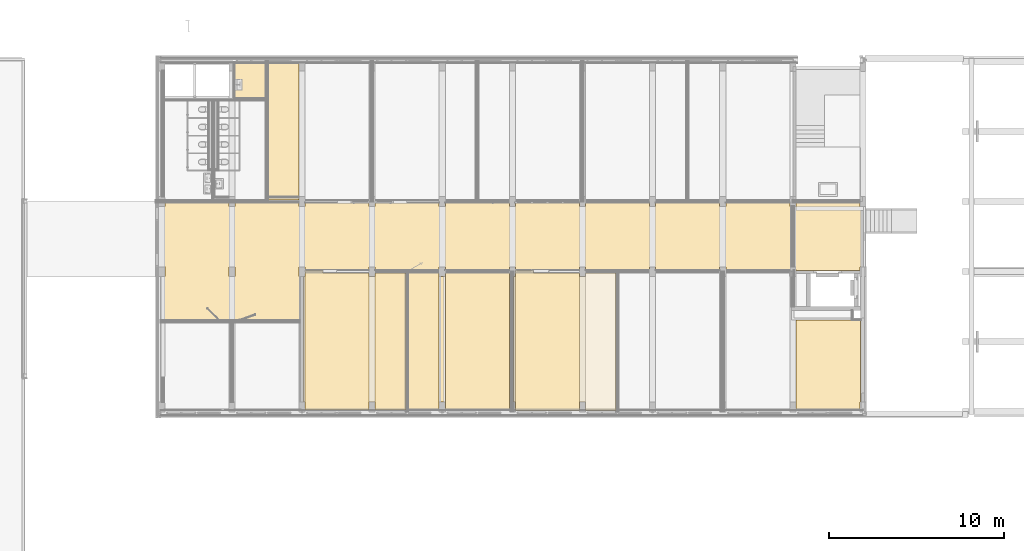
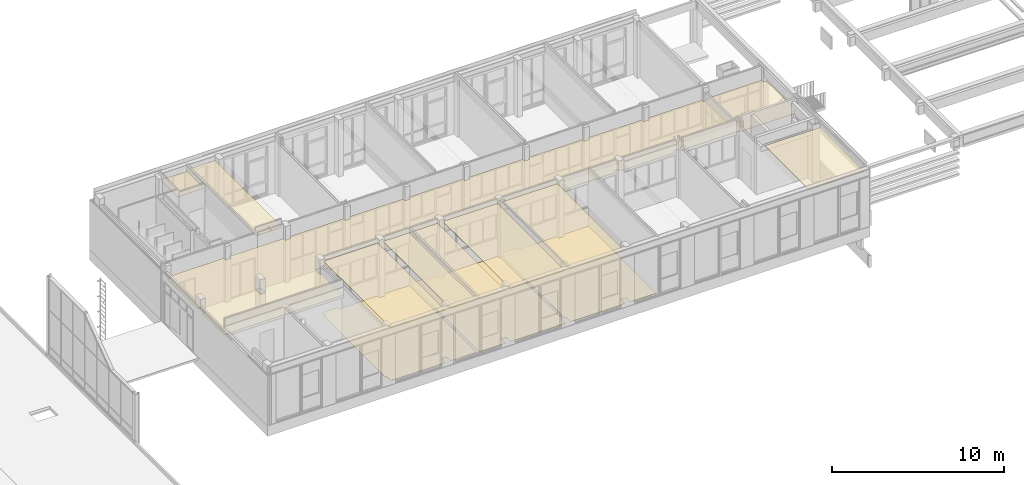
# One storey, part 44 of 54: 11 coverings.
"""IFC2X3 building model written with IfcOpenShell, lengths in millimetres."""

import ifcopenshell
import ifcopenshell.guid

model = None  # the IFC model being written
_history = None  # IfcOwnerHistory: only IFC2X3 demands one
_inside = {}  # id of a spatial element -> (the spatial element, [elements in it])
_under = {}  # id of a project, library or spatial element -> (it, [spatial elements below it])
_declared = {}  # id of a project -> (the project, [libraries it declares])
_typed = {}  # id of a type object -> (the type object, [elements of that type])
_made_of = {}  # id of a material, layer set ... -> (it, [elements and type objects made of it])


def new_model(schema):
    """Start an empty IFC model of exactly this schema.

    Asked for "IFC4X3", IfcOpenShell would pick the latest addendum, in which some entities
    have other attributes; the version numbers below select the first issue.
    IFC2X3 requires an IfcOwnerHistory on every rooted entity: one is made here for all.
    """
    global model, _history
    if schema == "IFC4X3":
        model = ifcopenshell.file(schema_version=(4, 3, 0, 0))
    else:
        model = ifcopenshell.file(schema=schema)
    _inside.clear()
    _under.clear()
    _declared.clear()
    _typed.clear()
    _made_of.clear()
    _history = None
    if model.schema == "IFC2X3":
        org = make("IfcOrganization", Name="unknown")
        user = make(
            "IfcPersonAndOrganization",
            ThePerson=make("IfcPerson", FamilyName="unknown"),
            TheOrganization=org,
        )
        app = make(
            "IfcApplication",
            ApplicationDeveloper=org,
            Version="unknown",
            ApplicationFullName="unknown",
            ApplicationIdentifier="unknown",
        )
        _history = make(
            "IfcOwnerHistory",
            OwningUser=user,
            OwningApplication=app,
            ChangeAction="ADDED",
            CreationDate=0,
        )
    return model


def make(cls, **values):
    """One entity of the class cls with the attributes given. An attribute that is None is left unset."""
    return model.create_entity(
        cls, **{name: value for name, value in values.items() if value is not None}
    )


def entity(cls, *values):
    """Any entity or typed value of the class cls, its attributes in the order of the schema. None: left unset."""
    e = model.create_entity(cls)
    for i, value in enumerate(values):
        if value is not None:
            e[i] = value
    return e


def rooted(cls, **values):
    """An entity with a GlobalId (a new one), such as an element, a storey or a relation."""
    return make(cls, GlobalId=ifcopenshell.guid.new(), OwnerHistory=_history, **values)


def si_unit(unit_type, name, prefix=None):
    """IfcSIUnit, for example si_unit("LENGTHUNIT", "METRE", prefix="MILLI")."""
    return make("IfcSIUnit", UnitType=unit_type, Prefix=prefix, Name=name)


def converted_unit(unit_type, name, factor, base, dimensions=None, offset=None):
    """IfcConversionBasedUnit, such as the inch: factor (a typed value) times the base unit."""
    return make(
        "IfcConversionBasedUnit"
        if offset is None
        else "IfcConversionBasedUnitWithOffset",
        ConversionOffset=offset,
        Dimensions=None
        if dimensions is None
        else entity("IfcDimensionalExponents", *dimensions),
        UnitType=unit_type,
        Name=name,
        ConversionFactor=make(
            "IfcMeasureWithUnit", ValueComponent=factor, UnitComponent=base
        ),
    )


def derived_unit(unit_type, elements):
    """IfcDerivedUnit: a product of units, each with its exponent."""
    return make(
        "IfcDerivedUnit",
        Elements=[
            make("IfcDerivedUnitElement", Unit=unit, Exponent=power)
            for unit, power in elements
        ],
        UnitType=unit_type,
    )


def money_unit(currency):
    """IfcMonetaryUnit."""
    return make("IfcMonetaryUnit", Currency=currency)


def assignment(units):
    """IfcUnitAssignment: the units of a project."""
    return None if units is None else make("IfcUnitAssignment", Units=units)


def point(xyz):
    """IfcCartesianPoint."""
    return None if xyz is None else make("IfcCartesianPoint", Coordinates=xyz)


def direction(xyz):
    """IfcDirection."""
    return None if xyz is None else make("IfcDirection", DirectionRatios=xyz)


def frame(location, z_axis=None, x_axis=None):
    """IfcAxis2Placement3D, a coordinate frame: its origin and axes. An axis left out is left unset."""
    return make(
        "IfcAxis2Placement3D",
        Location=point(location),
        Axis=direction(z_axis),
        RefDirection=direction(x_axis),
    )


def origin_with_axes():
    """The frame at (0, 0, 0) with the z axis (0, 0, 1) and the x axis (1, 0, 0) written out."""
    return frame((0.0, 0.0, 0.0), z_axis=(0.0, 0.0, 1.0), x_axis=(1.0, 0.0, 0.0))


def place(relative_to, where):
    """IfcLocalPlacement: puts the frame where relative to a parent placement (None: the world)."""
    return make(
        "IfcLocalPlacement", PlacementRelTo=relative_to, RelativePlacement=where
    )


def context(
    kind, dimensions, precision=None, world=None, true_north=None, identifier=None
):
    """IfcGeometricRepresentationContext, for example the 3D "Model" context."""
    return make(
        "IfcGeometricRepresentationContext",
        ContextIdentifier=identifier,
        ContextType=kind,
        CoordinateSpaceDimension=dimensions,
        Precision=precision,
        WorldCoordinateSystem=world,
        TrueNorth=true_north,
    )


def subcontext(parent, identifier, kind, view, scale=None):
    """IfcGeometricRepresentationSubContext, for example "Body" below "Model"."""
    return make(
        "IfcGeometricRepresentationSubContext",
        ContextIdentifier=identifier,
        ContextType=kind,
        ParentContext=parent,
        TargetScale=scale,
        TargetView=view,
    )


def project(units=None, contexts=None):
    """IfcProject with its units and contexts."""
    return rooted(
        "IfcProject",
        Name="project",
        RepresentationContexts=contexts,
        UnitsInContext=assignment(units),
    )


def spatial(cls, under=None, at=None, **own):
    """A site, building, storey or space (cls), placed at a placement, below another one or the project."""
    s = rooted(cls, ObjectPlacement=at, **own)
    if under is not None:
        _under.setdefault(under.id(), (under, []))[1].append(s)
    return s


def faces_of(points, faces, orient=None, outer=None):
    """IfcFace entities. A face is a list of loops; a loop is a list of indices into points, from 0.

    orient and outer hold one flag for each loop. By default every Orientation is true, the
    first loop of a face is its IfcFaceOuterBound and the others are IfcFaceBound.
    """
    made = []
    for i, loops in enumerate(faces):
        bounds = []
        for j, loop in enumerate(loops):
            is_outer = j == 0 if outer is None else outer[i][j]
            bounds.append(
                make(
                    "IfcFaceOuterBound" if is_outer else "IfcFaceBound",
                    Bound=make("IfcPolyLoop", Polygon=[points[k] for k in loop]),
                    Orientation=True if orient is None else orient[i][j],
                )
            )
        made.append(make("IfcFace", Bounds=bounds))
    return made


def faceted_brep(points, faces, orient=None, outer=None, voids=None):
    """IfcFacetedBrep: a solid bounded by flat faces; with voids (closed shells), ...WithVoids."""
    shared = [point(p) for p in points]
    hull = make("IfcClosedShell", CfsFaces=faces_of(shared, faces, orient, outer))
    if voids is None:
        return make("IfcFacetedBrep", Outer=hull)
    return make(
        "IfcFacetedBrepWithVoids",
        Outer=hull,
        Voids=[
            make(cls, CfsFaces=faces_of(shared, fs, o, b)) for cls, fs, o, b in voids
        ],
    )


def shape(context_of_items, identifier, shape_type, items):
    """IfcShapeRepresentation: the items that make up one representation, for example the "Body"."""
    return make(
        "IfcShapeRepresentation",
        ContextOfItems=context_of_items,
        RepresentationIdentifier=identifier,
        RepresentationType=shape_type,
        Items=items,
    )


def material(Name=None, Category=None):
    """IfcMaterial."""
    return make("IfcMaterial", Name=Name, Category=Category)


def made_of(thing, what):
    """Note that an element or type object is made of a material, layer set ...; save() writes the relation."""
    if what is not None:
        _made_of.setdefault(what.id(), (what, []))[1].append(thing)
    return thing


def type_object(cls, material=None, **own):
    """A type object (cls), such as IfcWallType, which elements share."""
    return made_of(rooted(cls, **own), material)


def element(
    cls,
    number,
    at=None,
    inside=None,
    cuts=None,
    type_object=None,
    material=None,
    context=None,
    identifier="Body",
    shape_type=None,
    held_by="IfcProductDefinitionShape",
    body=None,
    shapes=None,
    **own,
):
    """One element of the class cls, such as IfcWall. Its Tag is "e" and its number.

    at: its placement. inside: the storey or other place that contains it. cuts: it is an
    opening in that element (IfcRelVoidsElement). A single representation is given by context,
    identifier, shape_type and body (its items); several are given by shapes. held_by: the class
    of the entity that holds the representations. save() writes the other relations.
    """
    e = rooted(cls, Tag="e%d" % number, ObjectPlacement=at, **own)
    if body is not None:
        shapes = [shape(context, identifier, shape_type, body)]
    if shapes is not None:
        e.Representation = make(held_by, Representations=shapes)
    if inside is not None:
        _inside.setdefault(inside.id(), (inside, []))[1].append(e)
    if cuts is not None:
        rooted(
            "IfcRelVoidsElement", RelatingBuildingElement=cuts, RelatedOpeningElement=e
        )
    if type_object is not None:
        _typed.setdefault(type_object.id(), (type_object, []))[1].append(e)
    return made_of(e, material)


def aggregate(whole, parts):
    """IfcRelAggregates: a whole, such as a stair, and the parts it consists of."""
    return rooted("IfcRelAggregates", RelatingObject=whole, RelatedObjects=parts)


def save(model, path):
    """Write the relations noted so far, then the file.

    IfcRelAggregates (storeys below a building ...), IfcRelContainedInSpatialStructure (elements
    in a storey), IfcRelDefinesByType, IfcRelAssociatesMaterial and IfcRelDeclares: one each for
    every whole, place, type object, material and project.
    """
    for whole, parts in _under.values():
        aggregate(whole, parts)
    for where, things in _inside.values():
        rooted(
            "IfcRelContainedInSpatialStructure",
            RelatedElements=things,
            RelatingStructure=where,
        )
    for kind, things in _typed.values():
        rooted("IfcRelDefinesByType", RelatedObjects=things, RelatingType=kind)
    for what, things in _made_of.values():
        rooted("IfcRelAssociatesMaterial", RelatedObjects=things, RelatingMaterial=what)
    for by, libraries in _declared.values():
        rooted("IfcRelDeclares", RelatingContext=by, RelatedDefinitions=libraries)
    model.write(path)


model = new_model("IFC2X3")

# Units and contexts
model_context = context("Model", 3, precision=0.01, world=origin_with_axes(), true_north=direction((0.0, 1.0)))
body_context = subcontext(model_context, "Body", "Model", "MODEL_VIEW")
ifc_project = project(units=[si_unit("LENGTHUNIT", "METRE", prefix="MILLI"), si_unit("AREAUNIT", "SQUARE_METRE"), si_unit("VOLUMEUNIT", "CUBIC_METRE"), converted_unit("PLANEANGLEUNIT", "DEGREE", entity("IfcPlaneAngleMeasure", 0.0174532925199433), si_unit("PLANEANGLEUNIT", "RADIAN"), dimensions=[0, 0, 0, 0, 0, 0, 0]), money_unit("EUR"), converted_unit("TIMEUNIT", "Year", entity("IfcTimeMeasure", 31557600.0), si_unit("TIMEUNIT", "SECOND"), dimensions=[0, 0, 1, 0, 0, 0, 0]), si_unit("MASSUNIT", "GRAM", prefix="KILO"), si_unit("THERMODYNAMICTEMPERATUREUNIT", "DEGREE_CELSIUS"), si_unit("LUMINOUSINTENSITYUNIT", "LUMEN"), si_unit("ENERGYUNIT", "JOULE", prefix="MEGA"), derived_unit("THERMALCONDUCTANCEUNIT", [(si_unit("POWERUNIT", "WATT"), 1), (si_unit("LENGTHUNIT", "METRE"), -1), (si_unit("THERMODYNAMICTEMPERATUREUNIT", "KELVIN"), -1)]), derived_unit("SPECIFICHEATCAPACITYUNIT", [(si_unit("ENERGYUNIT", "JOULE"), 1), (si_unit("MASSUNIT", "GRAM", prefix="KILO"), -1), (si_unit("THERMODYNAMICTEMPERATUREUNIT", "KELVIN"), -1)]), derived_unit("MASSDENSITYUNIT", [(si_unit("MASSUNIT", "GRAM", prefix="KILO"), 1), (si_unit("VOLUMEUNIT", "CUBIC_METRE"), -1)])], contexts=[model_context])

# Site, building, storey
site_placement = place(None, origin_with_axes())
site = spatial("IfcSite", under=ifc_project, at=site_placement, Name="<site naam>", CompositionType="ELEMENT")
building_placement = place(site_placement, origin_with_axes())
building = spatial("IfcBuilding", under=site, at=building_placement, Name="<Naam gebouw>", CompositionType="ELEMENT")
storey_placement = place(building_placement, frame((0.0, 0.0, 8500.0), z_axis=(0.0, 0.0, 1.0), x_axis=(1.0, 0.0, 0.0)))
storey = spatial("IfcBuildingStorey", under=building, at=storey_placement, Name="02 2e verdieping", CompositionType="ELEMENT", Elevation=8500.0)

# Coverings
ifc_material_1 = material(Name="systeemplafond 600*600 kleur wit")
covering_type_1 = type_object("IfcCoveringType", Name="PA-01a 40", PredefinedType="CEILING")
covering_1_placement = place(storey_placement, frame((18075.05839070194, 12092.00928641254, 3699.999999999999), z_axis=(0.0, 0.0, 1.0), x_axis=(1.0, 0.0, 0.0)))
element("IfcCovering", 1, at=covering_1_placement, inside=storey, type_object=covering_type_1, material=ifc_material_1, Name="45_Vloer_PA-01a", PredefinedType="CEILING", context=body_context, shape_type="Brep", body=[
    faceted_brep([(1749.941494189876, 0.0, 40.00000000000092), (0.0, 0.0, 40.00000000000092), (0.0, 0.0, 0.0), (1749.941494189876, 0.0, 0.0), (1749.941610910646, 7791.990713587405, 40.00000000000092), (0.0, 7791.990713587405, 40.00000000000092), (0.0, 7791.990713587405, 0.0), (1749.941610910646, 7791.990713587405, 0.0)], [[[0, 1, 2, 3]], [[4, 5, 1, 0]], [[1, 5, 6, 2]], [[3, 2, 6, 7]], [[4, 0, 3, 7]], [[5, 4, 7, 6]]]),
])
covering_2_placement = place(storey_placement, frame((20175.00000000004, 7963.371334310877, 3699.999999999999), z_axis=(0.0, 0.0, 1.0), x_axis=(1.0, 0.0, 0.0)))
element("IfcCovering", 2, at=covering_2_placement, inside=storey, type_object=covering_type_1, material=ifc_material_1, Name="45_Vloer_PA-01a", PredefinedType="CEILING", context=body_context, shape_type="Brep", body=[
    faceted_brep([(3649.999985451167, -7847.371334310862, 0.0), (3649.999985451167, -25.87133431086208, 0.0), (3649.999985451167, -25.87133431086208, 40.00000000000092), (3649.999985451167, -7847.371334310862, 40.00000000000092), (0.0, -7847.371334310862, 0.0), (0.0, -25.87133431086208, 0.0), (0.0, -25.87133431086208, 40.00000000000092), (0.0, -7847.371334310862, 40.00000000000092)], [[[0, 1, 2, 3]], [[4, 5, 1, 0]], [[5, 6, 2, 1]], [[3, 2, 6, 7]], [[3, 7, 4, 0]], [[7, 6, 5, 4]]]),
])
covering_3_placement = place(storey_placement, frame((35825.00000000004, 7923.145650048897, 3699.999999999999), z_axis=(0.0, 0.0, 1.0), x_axis=(1.0, 0.0, 0.0)))
element("IfcCovering", 3, at=covering_3_placement, inside=storey, type_object=covering_type_1, material=ifc_material_1, Name="45_Vloer_PA-01a", PredefinedType="CEILING", context=body_context, shape_type="Brep", body=[
    faceted_brep([(0.0, 0.0, 40.00000000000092), (0.0, 0.0, 0.0), (-3650.000122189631, 0.0, 0.0), (-3650.000122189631, 0.0, 40.00000000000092), (0.0, -7807.145650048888, 40.00000000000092), (0.0, -7807.145650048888, 0.0), (-3650.000122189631, -7807.145650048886, 0.0), (-3650.000122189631, -7807.145650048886, 40.00000000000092)], [[[0, 1, 2, 3]], [[4, 5, 1, 0]], [[2, 1, 5, 6]], [[3, 2, 6, 7]], [[0, 3, 7, 4]], [[7, 6, 5, 4]]]),
])
covering_4_placement = place(storey_placement, frame((48174.99974672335, 116.0000000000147, 3699.999999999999), z_axis=(0.0, 0.0, 1.0), x_axis=(1.0, 0.0, 0.0)))
element("IfcCovering", 4, at=covering_4_placement, inside=storey, type_object=covering_type_1, material=ifc_material_1, Name="45_Vloer_PA-01a", PredefinedType="CEILING", context=body_context, shape_type="Brep", body=[
    faceted_brep([(0.0, 0.0, 40.00000000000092), (0.0, 0.0, 0.0), (3650.00024250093, 0.0, 0.0), (3650.00024250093, 0.0, 40.00000000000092), (0.0, 5112.500000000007, 40.00000000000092), (0.0, 5112.500000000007, 0.0), (3690.000396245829, 5112.500000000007, 0.0), (3690.000396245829, 433.9998078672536, 0.0), (3650.00024250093, 433.9998078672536, 0.0), (3650.00024250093, 433.9998078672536, 40.00000000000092), (3690.000396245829, 433.9998078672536, 40.00000000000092), (3690.000396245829, 5112.500000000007, 40.00000000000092)], [[[0, 1, 2, 3]], [[4, 5, 1, 0]], [[2, 1, 5, 6, 7, 8]], [[3, 2, 8, 9]], [[4, 0, 3, 9, 10, 11]], [[11, 6, 5, 4]], [[10, 7, 6, 11]], [[9, 8, 7, 10]]]),
])
covering_5_placement = place(storey_placement, frame((31825.00012218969, 116.0000000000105, 3699.999999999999), z_axis=(0.0, 0.0, 1.0), x_axis=(1.0, 0.0, 0.0)))
element("IfcCovering", 5, at=covering_5_placement, inside=storey, type_object=covering_type_1, material=ifc_material_1, Name="45_Vloer_PA-01a", PredefinedType="CEILING", context=body_context, shape_type="Brep", body=[
    faceted_brep([(0.0, 0.0, 40.00000000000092), (0.0, 0.0, 0.0), (0.0, 7807.145598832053, 0.0), (0.0, 7807.145598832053, 40.00000000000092), (-3650.000037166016, 0.0, 40.00000000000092), (-3650.000037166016, 0.0, 0.0), (-3650.000037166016, 7807.145598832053, 0.0), (-3650.000037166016, 7807.145598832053, 40.00000000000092)], [[[0, 1, 2, 3]], [[4, 5, 1, 0]], [[1, 5, 6, 2]], [[3, 2, 6, 7]], [[4, 0, 3, 7]], [[7, 6, 5, 4]]]),
])
covering_6_placement = place(storey_placement, frame((24174.99987781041, 116.0000000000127, 3699.999999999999), z_axis=(0.0, 0.0, 1.0), x_axis=(1.0, 0.0, 0.0)))
element("IfcCovering", 6, at=covering_6_placement, inside=storey, type_object=covering_type_1, material=ifc_material_1, Name="45_Vloer_PA-01a", PredefinedType="CEILING", context=body_context, shape_type="Brep", body=[
    faceted_brep([(0.0, 0.0, 40.00000000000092), (0.0, 0.0, 0.0), (1748.749154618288, 0.0, 0.0), (1748.749154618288, 0.0, 40.00000000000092), (0.0, 7807.145527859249, 40.00000000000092), (0.0, 7807.145527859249, 0.0), (3650.000263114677, 7807.145527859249, 0.0), (3650.019574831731, 434.0000119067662, 0.0), (3650.001891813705, 0.0, 0.0), (1898.748845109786, 0.0, 0.0), (1898.748845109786, 7805.615597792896, 0.0), (1748.749154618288, 7805.615597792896, 0.0), (1748.749154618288, 7805.615597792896, 40.00000000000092), (1898.748845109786, 7805.615597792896, 40.00000000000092), (1898.748845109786, 0.0, 40.00000000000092), (3650.001891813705, 0.0, 40.00000000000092), (3650.019574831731, 434.0000119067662, 40.00000000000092), (3650.000263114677, 7807.145527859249, 40.00000000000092)], [[[0, 1, 2, 3]], [[4, 5, 1, 0]], [[2, 1, 5, 6, 7, 8, 9, 10, 11]], [[3, 2, 11, 12]], [[0, 3, 12, 13, 14, 15, 16, 17, 4]], [[17, 6, 5, 4]], [[16, 7, 6, 17]], [[15, 8, 7, 16]], [[14, 9, 8, 15]], [[13, 10, 9, 14]], [[12, 11, 10, 13]]]),
])
covering_7_placement = place(storey_placement, frame((17925.10061380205, 19883.99999999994, 3600.0), z_axis=(0.0, 0.0, 1.0), x_axis=(1.0, 0.0, 0.0)))
element("IfcCovering", 7, at=covering_7_placement, inside=storey, type_object=covering_type_1, material=ifc_material_1, Name="45_Vloer_PA-01a", PredefinedType="CEILING", context=body_context, shape_type="Brep", body=[
    faceted_brep([(0.0, 0.0, 40.00000000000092), (0.0, 0.0, 0.0), (-1750.100570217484, 0.0, 0.0), (-1750.100570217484, 0.0, 40.00000000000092), (0.0, -1983.999999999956, 40.00000000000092), (0.0, -1983.999999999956, 0.0), (-1750.100570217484, -1983.999999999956, 0.0), (-1750.100570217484, -1983.999999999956, 40.00000000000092)], [[[0, 1, 2, 3]], [[4, 5, 1, 0]], [[2, 1, 5, 6]], [[3, 2, 6, 7]], [[4, 0, 3, 7]], [[7, 6, 5, 4]]]),
])
ifc_material_2 = material(Name="systeemplafond 600*600")
covering_type_2 = type_object("IfcCoveringType", Name="PA-01c 40", PredefinedType="CEILING")
covering_8_placement = place(storey_placement, frame((11935.00007376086, 5225.000000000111, 3000.0), z_axis=(0.0, 0.0, 1.0), x_axis=(1.0, 0.0, 0.0)))
element("IfcCovering", 8, at=covering_8_placement, inside=storey, type_object=covering_type_2, material=ifc_material_2, Name="45_Vloer_PA-01c", PredefinedType="CEILING", context=body_context, shape_type="Brep", body=[
    faceted_brep([(7989.999926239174, 0.0, 39.99999999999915), (0.0, 0.0, 39.99999999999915), (0.0, 0.0, 0.0), (7989.999926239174, 0.0, 0.0), (239.9999262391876, 2499.999999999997, 39.99999999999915), (0.0, 2499.999999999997, 39.99999999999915), (7989.999926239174, 2499.999999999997, 39.99999999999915), (7889.999926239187, 2499.999999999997, 39.99999999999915), (7889.999926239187, 3050.000000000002, 39.99999999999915), (8239.999926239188, 3050.000000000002, 39.99999999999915), (8239.999926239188, 2849.435951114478, 39.99999999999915), (11889.99992623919, 2849.435951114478, 39.99999999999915), (11889.99992623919, 3050.000000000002, 39.99999999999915), (12239.99992623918, 3050.000000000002, 39.99999999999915), (12239.99992623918, 2849.435951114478, 39.99999999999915), (15889.99992623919, 2849.435951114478, 39.99999999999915), (15889.99992623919, 3049.999999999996, 39.99999999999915), (16239.99992623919, 3049.999999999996, 39.99999999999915), (16239.99992623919, 2849.435951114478, 39.99999999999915), (19889.9999262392, 2849.435951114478, 39.99999999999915), (19889.9999262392, 3049.999999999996, 39.99999999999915), (20239.99992623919, 3049.999999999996, 39.99999999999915), (20239.99992623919, 2849.435951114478, 39.99999999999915), (23889.9999262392, 2849.435951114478, 39.99999999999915), (23889.9999262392, 3049.999999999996, 39.99999999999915), (24239.99992623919, 3049.999999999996, 39.99999999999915), (24239.99992623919, 2849.435951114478, 39.99999999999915), (27889.9999262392, 2849.435951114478, 39.99999999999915), (27889.9999262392, 3049.999999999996, 39.99999999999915), (28239.9999262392, 3049.999999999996, 39.99999999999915), (28239.9999262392, 2849.435951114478, 39.99999999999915), (31889.9999262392, 2849.435951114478, 39.99999999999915), (31889.9999262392, 3049.999999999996, 39.99999999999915), (32239.99992623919, 3049.999999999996, 39.99999999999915), (32239.99992623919, 2888.658470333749, 39.99999999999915), (36239.99992623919, 2888.658470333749, 39.99999999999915), (36239.99992623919, 2829.999998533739, 39.99999999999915), (39889.99992623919, 2829.999998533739, 39.99999999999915), (39889.99992623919, 3049.999999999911, 39.99999999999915), (40089.99837730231, 3049.999999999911, 39.99999999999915), (40089.99837730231, 6499.999999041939, 39.99999999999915), (39890.02677438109, 6499.999997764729, 39.99999999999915), (39890.02677438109, 6699.999999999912, 39.99999999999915), (36239.99992623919, 6699.999999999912, 39.99999999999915), (36239.99992623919, 6499.999997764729, 39.99999999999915), (35889.99992623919, 6499.999999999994, 39.99999999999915), (35889.99992623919, 6702.076391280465, 39.99999999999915), (32239.99992623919, 6702.076391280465, 39.99999999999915), (32239.99992623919, 6499.999999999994, 39.99999999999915), (31889.9999262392, 6499.999999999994, 39.99999999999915), (31889.9999262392, 6702.076391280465, 39.99999999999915), (28239.9999262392, 6702.076391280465, 39.99999999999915), (28239.9999262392, 6499.999999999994, 39.99999999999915), (27889.99992623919, 6499.999999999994, 39.99999999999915), (27889.99992623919, 6702.076391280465, 39.99999999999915), (24239.99992623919, 6702.076391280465, 39.99999999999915), (24239.99992623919, 6499.999999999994, 39.99999999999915), (23889.99992623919, 6499.999999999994, 39.99999999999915), (23889.99992623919, 6702.076391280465, 39.99999999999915), (20239.99992623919, 6702.076391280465, 39.99999999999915), (20239.99992623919, 6499.999999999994, 39.99999999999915), (19889.99992623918, 6499.999999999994, 39.99999999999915), (19889.99992623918, 6702.076391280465, 39.99999999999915), (16239.99992623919, 6702.076391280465, 39.99999999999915), (16239.99992623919, 6499.999999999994, 39.99999999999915), (15889.99992623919, 6499.999999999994, 39.99999999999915), (15889.99992623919, 6702.076391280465, 39.99999999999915), (12239.99992623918, 6702.076391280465, 39.99999999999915), (12239.99992623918, 6500.000000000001, 39.99999999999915), (11889.99992623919, 6500.000000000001, 39.99999999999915), (11889.99992623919, 6702.076391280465, 39.99999999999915), (8239.999926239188, 6702.076391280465, 39.99999999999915), (8239.999926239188, 6500.000000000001, 39.99999999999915), (7889.999926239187, 6500.000000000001, 39.99999999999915), (7889.999926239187, 6702.076391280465, 39.99999999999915), (4239.999926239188, 6702.076391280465, 39.99999999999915), (4239.999926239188, 6500.000000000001, 39.99999999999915), (3889.999926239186, 6500.000000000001, 39.99999999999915), (3889.999926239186, 6702.076391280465, 39.99999999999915), (239.9999262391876, 6702.076391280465, 39.99999999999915), (239.9999262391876, 6500.000000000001, 39.99999999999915), (0.0, 6500.000000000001, 39.99999999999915), (0.0, 3055.028399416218, 39.99999999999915), (239.9999262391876, 3055.028399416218, 39.99999999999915), (4239.999926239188, 3050.000000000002, 39.99999999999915), (4239.999926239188, 2499.999999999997, 39.99999999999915), (3889.999926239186, 2499.999999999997, 39.99999999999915), (3889.999926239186, 3050.000000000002, 39.99999999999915), (0.0, 2499.999999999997, 0.0), (7989.999926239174, 2499.999999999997, 0.0), (239.9999262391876, 2499.999999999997, 0.0), (239.9999262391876, 3055.028399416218, 0.0), (0.0, 3055.028399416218, 0.0), (0.0, 6500.000000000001, 0.0), (239.9999262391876, 6500.000000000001, 0.0), (239.9999262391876, 6702.076391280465, 0.0), (3889.999926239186, 6702.076391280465, 0.0), (3889.999926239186, 6500.000000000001, 0.0), (4239.999926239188, 6500.000000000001, 0.0), (4239.999926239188, 6702.076391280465, 0.0), (7889.999926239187, 6702.076391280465, 0.0), (7889.999926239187, 6500.000000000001, 0.0), (8239.999926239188, 6500.000000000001, 0.0), (8239.999926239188, 6702.076391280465, 0.0), (11889.99992623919, 6702.076391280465, 0.0), (11889.99992623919, 6500.000000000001, 0.0), (12239.99992623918, 6500.000000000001, 0.0), (12239.99992623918, 6702.076391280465, 0.0), (15889.99992623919, 6702.076391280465, 0.0), (15889.99992623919, 6499.999999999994, 0.0), (16239.99992623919, 6499.999999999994, 0.0), (16239.99992623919, 6702.076391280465, 0.0), (19889.99992623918, 6702.076391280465, 0.0), (19889.99992623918, 6499.999999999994, 0.0), (20239.99992623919, 6499.999999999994, 0.0), (20239.99992623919, 6702.076391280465, 0.0), (23889.99992623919, 6702.076391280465, 0.0), (23889.99992623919, 6499.999999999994, 0.0), (24239.99992623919, 6499.999999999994, 0.0), (24239.99992623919, 6702.076391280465, 0.0), (27889.99992623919, 6702.076391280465, 0.0), (27889.99992623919, 6499.999999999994, 0.0), (28239.9999262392, 6499.999999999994, 0.0), (28239.9999262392, 6702.076391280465, 0.0), (31889.9999262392, 6702.076391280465, 0.0), (31889.9999262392, 6499.999999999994, 0.0), (32239.99992623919, 6499.999999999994, 0.0), (32239.99992623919, 6702.076391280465, 0.0), (35889.99992623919, 6702.076391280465, 0.0), (35889.99992623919, 6499.999999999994, 0.0), (36239.99992623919, 6499.999997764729, 0.0), (36239.99992623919, 6699.999999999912, 0.0), (39890.02677438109, 6699.999999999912, 0.0), (39890.02677438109, 6499.999997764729, 0.0), (40089.99837730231, 6499.999999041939, 0.0), (40089.99837730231, 3049.999999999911, 0.0), (39889.99992623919, 3049.999999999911, 0.0), (39889.99992623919, 2829.999998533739, 0.0), (36239.99992623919, 2829.999998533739, 0.0), (36239.99992623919, 2888.658470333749, 0.0), (32239.99992623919, 2888.658470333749, 0.0), (32239.99992623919, 3049.999999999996, 0.0), (31889.9999262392, 3049.999999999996, 0.0), (31889.9999262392, 2849.435951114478, 0.0), (28239.9999262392, 2849.435951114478, 0.0), (28239.9999262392, 3049.999999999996, 0.0), (27889.9999262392, 3049.999999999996, 0.0), (27889.9999262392, 2849.435951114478, 0.0), (24239.99992623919, 2849.435951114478, 0.0), (24239.99992623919, 3049.999999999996, 0.0), (23889.9999262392, 3049.999999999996, 0.0), (23889.9999262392, 2849.435951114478, 0.0), (20239.99992623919, 2849.435951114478, 0.0), (20239.99992623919, 3049.999999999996, 0.0), (19889.9999262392, 3049.999999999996, 0.0), (19889.9999262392, 2849.435951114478, 0.0), (16239.99992623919, 2849.435951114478, 0.0), (16239.99992623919, 3049.999999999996, 0.0), (15889.99992623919, 3049.999999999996, 0.0), (15889.99992623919, 2849.435951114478, 0.0), (12239.99992623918, 2849.435951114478, 0.0), (12239.99992623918, 3050.000000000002, 0.0), (11889.99992623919, 3050.000000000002, 0.0), (11889.99992623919, 2849.435951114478, 0.0), (8239.999926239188, 2849.435951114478, 0.0), (8239.999926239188, 3050.000000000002, 0.0), (7889.999926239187, 3050.000000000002, 0.0), (7889.999926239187, 2499.999999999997, 0.0), (4239.999926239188, 3050.000000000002, 0.0), (3889.999926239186, 3050.000000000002, 0.0), (3889.999926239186, 2499.999999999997, 0.0), (4239.999926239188, 2499.999999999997, 0.0)], [[[0, 1, 2, 3]], [[4, 5, 1, 0, 6, 7, 8, 9, 10, 11, 12, 13, 14, 15, 16, 17, 18, 19, 20, 21, 22, 23, 24, 25, 26, 27, 28, 29, 30, 31, 32, 33, 34, 35, 36, 37, 38, 39, 40, 41, 42, 43, 44, 45, 46, 47, 48, 49, 50, 51, 52, 53, 54, 55, 56, 57, 58, 59, 60, 61, 62, 63, 64, 65, 66, 67, 68, 69, 70, 71, 72, 73, 74, 75, 76, 77, 78, 79, 80, 81, 82, 83], [84, 85, 86, 87]], [[1, 5, 88, 2]], [[89, 3, 2, 88, 90, 91, 92, 93, 94, 95, 96, 97, 98, 99, 100, 101, 102, 103, 104, 105, 106, 107, 108, 109, 110, 111, 112, 113, 114, 115, 116, 117, 118, 119, 120, 121, 122, 123, 124, 125, 126, 127, 128, 129, 130, 131, 132, 133, 134, 135, 136, 137, 138, 139, 140, 141, 142, 143, 144, 145, 146, 147, 148, 149, 150, 151, 152, 153, 154, 155, 156, 157, 158, 159, 160, 161, 162, 163, 164, 165, 166, 167], [168, 169, 170, 171]], [[6, 0, 3, 89]], [[5, 4, 90, 88]], [[7, 6, 89, 167]], [[8, 7, 167, 166]], [[9, 8, 166, 165]], [[10, 9, 165, 164]], [[11, 10, 164, 163]], [[12, 11, 163, 162]], [[13, 12, 162, 161]], [[14, 13, 161, 160]], [[15, 14, 160, 159]], [[16, 15, 159, 158]], [[17, 16, 158, 157]], [[18, 17, 157, 156]], [[19, 18, 156, 155]], [[20, 19, 155, 154]], [[21, 20, 154, 153]], [[22, 21, 153, 152]], [[23, 22, 152, 151]], [[24, 23, 151, 150]], [[25, 24, 150, 149]], [[26, 25, 149, 148]], [[27, 26, 148, 147]], [[28, 27, 147, 146]], [[29, 28, 146, 145]], [[30, 29, 145, 144]], [[31, 30, 144, 143]], [[32, 31, 143, 142]], [[33, 32, 142, 141]], [[34, 33, 141, 140]], [[35, 34, 140, 139]], [[36, 35, 139, 138]], [[37, 36, 138, 137]], [[38, 37, 137, 136]], [[39, 38, 136, 135]], [[40, 39, 135, 134]], [[41, 40, 134, 133]], [[42, 41, 133, 132]], [[43, 42, 132, 131]], [[44, 43, 131, 130]], [[45, 44, 130, 129]], [[46, 45, 129, 128]], [[47, 46, 128, 127]], [[48, 47, 127, 126]], [[49, 48, 126, 125]], [[50, 49, 125, 124]], [[51, 50, 124, 123]], [[52, 51, 123, 122]], [[53, 52, 122, 121]], [[54, 53, 121, 120]], [[55, 54, 120, 119]], [[56, 55, 119, 118]], [[57, 56, 118, 117]], [[58, 57, 117, 116]], [[59, 58, 116, 115]], [[60, 59, 115, 114]], [[61, 60, 114, 113]], [[62, 61, 113, 112]], [[63, 62, 112, 111]], [[64, 63, 111, 110]], [[65, 64, 110, 109]], [[66, 65, 109, 108]], [[67, 66, 108, 107]], [[68, 67, 107, 106]], [[69, 68, 106, 105]], [[70, 69, 105, 104]], [[71, 70, 104, 103]], [[72, 71, 103, 102]], [[73, 72, 102, 101]], [[74, 73, 101, 100]], [[75, 74, 100, 99]], [[76, 75, 99, 98]], [[77, 76, 98, 97]], [[78, 77, 97, 96]], [[79, 78, 96, 95]], [[80, 79, 95, 94]], [[81, 80, 94, 93]], [[82, 81, 93, 92]], [[83, 82, 92, 91]], [[4, 83, 91, 90]], [[85, 84, 168, 171]], [[86, 85, 171, 170]], [[87, 86, 170, 169]], [[84, 87, 169, 168]]]),
])
ifc_material_3 = material(Name="Vinyl type 01a")
covering_type_3 = type_object("IfcCoveringType", Name="VA-01a 3", PredefinedType="CEILING")
covering_9_placement = place(storey_placement, frame((20075.00000000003, 4074.656234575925, 0.0), z_axis=(0.0, 0.0, 1.0), x_axis=(1.0, 0.0, 0.0)))
element("IfcCovering", 9, at=covering_9_placement, inside=storey, type_object=covering_type_3, material=ifc_material_3, Name="43_Vloer_VA-01a", PredefinedType="CEILING", context=body_context, shape_type="Brep", body=[
    faceted_brep([(0.0, -3524.656225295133, 3.000000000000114), (0.0, -3524.656225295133, 0.0), (100.0000021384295, -3524.656225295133, 0.0), (100.0000021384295, -3524.656225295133, 3.000000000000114), (0.0, 3650.343690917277, 3.000000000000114), (0.0, 3650.343690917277, 0.0), (100.0000021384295, 3650.343690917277, 0.0), (100.0000021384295, 4001.11146024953, 0.0), (1134.000024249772, 4000.304794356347, 0.0), (1133.879753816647, 3846.240741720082, 0.0), (3749.99996158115, 3846.959399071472, 0.0), (3749.99996158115, 3650.343690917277, 0.0), (4099.99996906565, 3650.343690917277, 0.0), (4099.99996906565, 3846.959399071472, 0.0), (5848.749027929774, 3846.959399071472, 0.0), (5848.749027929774, -3958.65623457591, 0.0), (4099.99996906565, -3958.65623457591, 0.0), (4099.99996906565, -3524.656225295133, 0.0), (3749.99996158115, -3524.656225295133, 0.0), (3749.99996158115, -3958.65623457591, 0.0), (100.0000021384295, -3958.65623457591, 0.0), (100.0000021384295, -3958.65623457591, 3.000000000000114), (3749.99996158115, -3958.65623457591, 3.000000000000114), (3749.99996158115, -3524.656225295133, 3.000000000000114), (4099.99996906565, -3524.656225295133, 3.000000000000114), (4099.99996906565, -3958.65623457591, 3.000000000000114), (5848.749027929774, -3958.65623457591, 3.000000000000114), (5848.749027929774, 3846.959399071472, 3.000000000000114), (4099.99996906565, 3846.959399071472, 3.000000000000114), (4099.99996906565, 3650.343690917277, 3.000000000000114), (3749.99996158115, 3650.343690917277, 3.000000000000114), (3749.99996158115, 3846.959399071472, 3.000000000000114), (1133.879753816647, 3846.240741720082, 3.000000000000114), (1134.000024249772, 4000.304794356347, 3.000000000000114), (100.0000021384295, 4001.11146024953, 3.000000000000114), (100.0000021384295, 3650.343690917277, 3.000000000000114)], [[[0, 1, 2, 3]], [[4, 5, 1, 0]], [[1, 5, 6, 7, 8, 9, 10, 11, 12, 13, 14, 15, 16, 17, 18, 19, 20, 2]], [[3, 2, 20, 21]], [[4, 0, 3, 21, 22, 23, 24, 25, 26, 27, 28, 29, 30, 31, 32, 33, 34, 35]], [[35, 6, 5, 4]], [[34, 7, 6, 35]], [[33, 8, 7, 34]], [[32, 9, 8, 33]], [[31, 10, 9, 32]], [[30, 11, 10, 31]], [[29, 12, 11, 30]], [[28, 13, 12, 29]], [[27, 14, 13, 28]], [[26, 15, 14, 27]], [[25, 16, 15, 26]], [[24, 17, 16, 25]], [[23, 18, 17, 24]], [[22, 19, 18, 23]], [[21, 20, 19, 22]]]),
])
covering_10_placement = place(storey_placement, frame((32075.01871998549, 7724.999909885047, 0.0), z_axis=(0.0, 0.0, 1.0), x_axis=(1.0, 0.0, 0.0)))
element("IfcCovering", 10, at=covering_10_placement, inside=storey, type_object=covering_type_3, material=ifc_material_3, Name="43_Vloer_VA-01a", PredefinedType="CEILING", context=body_context, shape_type="Brep", body=[
    faceted_brep([(0.0, 0.0, 3.000000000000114), (0.0, 0.0, 0.0), (0.0, -7174.999677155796, 0.0), (0.0, -7174.999677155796, 3.000000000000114), (99.98107134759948, 0.0, 3.000000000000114), (99.98107134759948, 0.0, 0.0), (99.98107134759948, 348.8479257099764, 0.0), (1133.981211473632, 350.058634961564, 0.0), (1134.159614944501, 197.6940489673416, 0.0), (3749.981307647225, 196.6156082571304, 0.0), (3749.981307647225, 0.0, 0.0), (4099.981274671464, 0.0, 0.0), (4099.981274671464, 196.6156082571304, 0.0), (5848.741521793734, 196.6156082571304, 0.0), (5848.741521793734, -7649.999909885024, 0.0), (4099.981274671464, -7649.999909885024, 0.0), (4099.981274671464, -7175.00003031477, 0.0), (3749.981307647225, -7175.00003031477, 0.0), (3749.981307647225, -7649.999909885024, 0.0), (99.98107134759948, -7649.999909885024, 0.0), (99.98107134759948, -7175.00003031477, 0.0), (99.98107134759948, -7175.00003031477, 3.000000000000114), (99.98107134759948, -7649.999909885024, 3.000000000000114), (3749.981307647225, -7649.999909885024, 3.000000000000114), (3749.981307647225, -7175.00003031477, 3.000000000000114), (4099.981274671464, -7175.00003031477, 3.000000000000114), (4099.981274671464, -7649.999909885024, 3.000000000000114), (5848.741521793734, -7649.999909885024, 3.000000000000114), (5848.741521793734, 196.6156082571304, 3.000000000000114), (4099.981274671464, 196.6156082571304, 3.000000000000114), (4099.981274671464, 0.0, 3.000000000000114), (3749.981307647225, 0.0, 3.000000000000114), (3749.981307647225, 196.6156082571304, 3.000000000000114), (1134.159614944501, 197.6940489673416, 3.000000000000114), (1133.981211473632, 350.058634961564, 3.000000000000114), (99.98107134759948, 348.8479257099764, 3.000000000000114)], [[[0, 1, 2, 3]], [[4, 5, 1, 0]], [[2, 1, 5, 6, 7, 8, 9, 10, 11, 12, 13, 14, 15, 16, 17, 18, 19, 20]], [[3, 2, 20, 21]], [[4, 0, 3, 21, 22, 23, 24, 25, 26, 27, 28, 29, 30, 31, 32, 33, 34, 35]], [[35, 6, 5, 4]], [[34, 7, 6, 35]], [[33, 8, 7, 34]], [[32, 9, 8, 33]], [[31, 10, 9, 32]], [[30, 11, 10, 31]], [[29, 12, 11, 30]], [[28, 13, 12, 29]], [[27, 14, 13, 28]], [[26, 15, 14, 27]], [[25, 16, 15, 26]], [[24, 17, 16, 25]], [[23, 18, 17, 24]], [[22, 19, 18, 23]], [[21, 20, 19, 22]]]),
])
covering_11_placement = place(storey_placement, frame((26073.74903663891, 75.00000000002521, 0.0), z_axis=(0.0, 0.0, 1.0), x_axis=(1.0, 0.0, 0.0)))
element("IfcCovering", 11, at=covering_11_placement, inside=storey, type_object=covering_type_3, material=ifc_material_3, Name="43_Vloer_VA-01a", PredefinedType="CEILING", context=body_context, shape_type="Brep", body=[
    faceted_brep([(0.0, 0.0, 3.000000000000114), (0.0, 0.0, 0.0), (1751.270428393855, 0.0, 0.0), (1751.270428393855, 0.0, 3.000000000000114), (0.0, 7999.832399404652, 3.000000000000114), (0.0, 7999.832399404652, 0.0), (968.3859493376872, 8000.009124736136, 0.0), (968.4139195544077, 7846.743236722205, 0.0), (1751.250881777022, 7846.615633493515, 0.0), (1751.250881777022, 7649.999946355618, 0.0), (2101.251003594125, 7649.999946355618, 0.0), (2101.251003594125, 7846.615633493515, 0.0), (5751.251004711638, 7846.615633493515, 0.0), (5751.251004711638, 7649.999946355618, 0.0), (5851.250963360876, 7649.999946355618, 0.0), (5851.250963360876, 475.000203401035, 0.0), (5751.251004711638, 475.000025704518, 0.0), (5751.251004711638, 0.0, 0.0), (2101.251003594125, 0.0, 0.0), (2101.251003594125, 475.000025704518, 0.0), (1751.270428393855, 475.000025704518, 0.0), (1751.270428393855, 475.000025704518, 3.000000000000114), (2101.251003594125, 475.000025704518, 3.000000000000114), (2101.251003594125, 0.0, 3.000000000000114), (5751.251004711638, 0.0, 3.000000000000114), (5751.251004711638, 475.000025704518, 3.000000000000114), (5851.250963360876, 475.000203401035, 3.000000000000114), (5851.250963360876, 7649.999946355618, 3.000000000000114), (5751.251004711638, 7649.999946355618, 3.000000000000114), (5751.251004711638, 7846.615633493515, 3.000000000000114), (2101.251003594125, 7846.615633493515, 3.000000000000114), (2101.251003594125, 7649.999946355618, 3.000000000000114), (1751.250881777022, 7649.999946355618, 3.000000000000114), (1751.250881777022, 7846.615633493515, 3.000000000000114), (968.4139195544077, 7846.743236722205, 3.000000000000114), (968.3859493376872, 8000.009124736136, 3.000000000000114)], [[[0, 1, 2, 3]], [[4, 5, 1, 0]], [[2, 1, 5, 6, 7, 8, 9, 10, 11, 12, 13, 14, 15, 16, 17, 18, 19, 20]], [[3, 2, 20, 21]], [[4, 0, 3, 21, 22, 23, 24, 25, 26, 27, 28, 29, 30, 31, 32, 33, 34, 35]], [[35, 6, 5, 4]], [[34, 7, 6, 35]], [[33, 8, 7, 34]], [[32, 9, 8, 33]], [[31, 10, 9, 32]], [[30, 11, 10, 31]], [[29, 12, 11, 30]], [[28, 13, 12, 29]], [[27, 14, 13, 28]], [[26, 15, 14, 27]], [[25, 16, 15, 26]], [[24, 17, 16, 25]], [[23, 18, 17, 24]], [[22, 19, 18, 23]], [[21, 20, 19, 22]]]),
])

save(model, "model.ifc")
